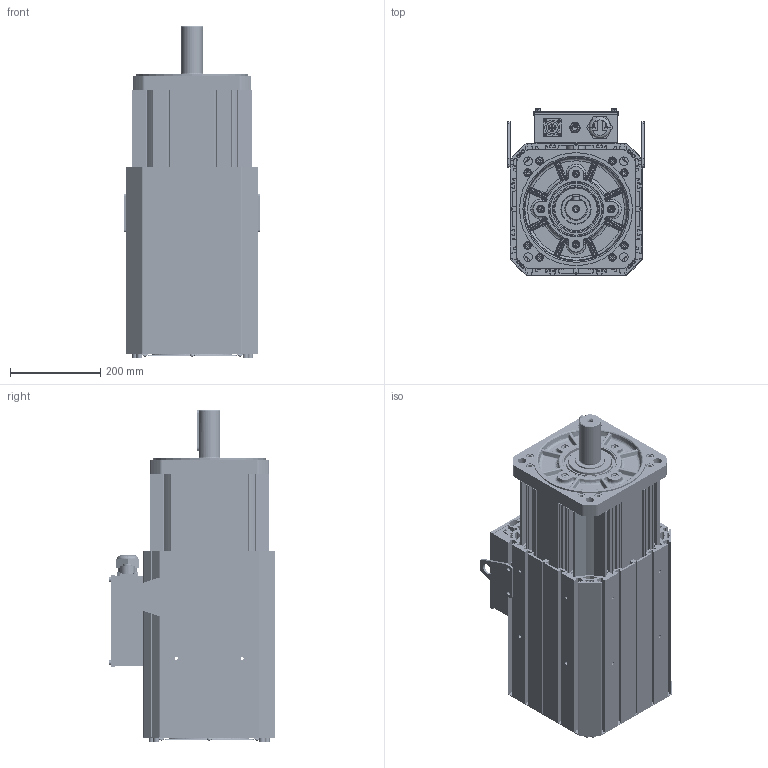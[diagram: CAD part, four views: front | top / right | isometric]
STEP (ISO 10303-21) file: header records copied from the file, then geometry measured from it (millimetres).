
FILE_DESCRIPTION (( 'STEP AP214' ), '1' );
FILE_NAME ('VM7-M26D-03715-D1FNH.STEP', '2022-04-02T01:08:54', ( '' ), ( '' ), 'SwSTEP 2.0', 'SolidWorks 2014', '' );
FILE_SCHEMA (( 'AUTOMOTIVE_DESIGN' ));
Length unit declared in the file: millimetre
Products named in the file (3): VM7-M26D-03715-D1FNH; 翋极; 俋褲
Assembly tree (2 placements, depth 2):
  VM7-M26D-03715-D1FNH
    翋极
    俋褲
Bounding box: 302 x 368.5 x 735 mm (x, y, z)
Volume: 10761041.7 mm3; surface area: 3770466.6 mm2
Topology: 121 solids, 121 shells, 4424 faces, 11332 edges, 7180 vertices
Faces by surface type: plane 2589, cylinder 1089, bspline 445, cone 301
Entity records: 152537 total; most frequent: CARTESIAN_POINT 45517, ORIENTED_EDGE 22412, DIRECTION 21208, EDGE_CURVE 11206, VECTOR 7212, LINE 7212, VERTEX_POINT 7180, AXIS2_PLACEMENT_3D 6998
